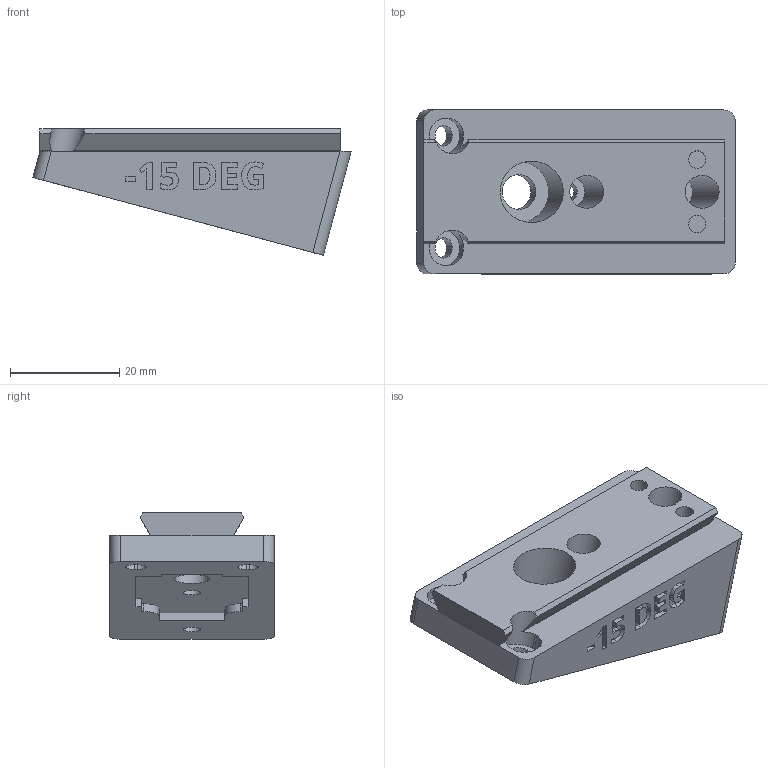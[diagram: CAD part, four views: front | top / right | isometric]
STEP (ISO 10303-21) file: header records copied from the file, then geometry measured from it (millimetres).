
FILE_DESCRIPTION(/* description */ ('STEP AP242 Edition 2','CAx-IF Rec.Pracs.---Representation and Presentation of Product Manufacturing Information (PMI)---4.0---2014-10-13','CAx-IF Rec.Pracs.---3D Tessellated Geometry---0.4---2014-09-14','2;1','CAx-IF Rec.Pracs.---User Defined Attributes---1.5---2016-08-15'),/* implementation_level */ '2;1');
FILE_NAME(/* name */ 'Camera Wedges - CAMERA MOUNTING WEDGE, NEG, -15 DEG',/* time_stamp */ '2026-07-08T20:34:44Z',/* author */ (''),/* organization */ (''),/* preprocessor_version */ 'ST-DEVELOPER v20',/* originating_system */ 'ONSHAPE BY PTC INC, 1.217',/* authorisation */ ' ');
FILE_SCHEMA (('AP242_MANAGED_MODEL_BASED_3D_ENGINEERING_MIM_LF { 1 0 10303 442 3 1 4 }'));
Length unit declared in the file: metre
Products named in the file (1): CAMERA MOUNTING WEDGE, NEG, -15 DEG
Bounding box: 58.22 x 30 x 23.13 mm (x, y, z)
Volume: 20975.9 mm3; surface area: 7734.3 mm2
Topology: 1 solids, 1 shells, 245 faces, 667 edges, 444 vertices
Faces by surface type: plane 155, cylinder 46, bspline 44
Full cylindrical faces by diameter (mm): 3.2 x4, 6 x2, 6.4 x1, 11.2 x1
Entity records: 7847 total; most frequent: CARTESIAN_POINT 1833, ORIENTED_EDGE 1318, DIRECTION 1079, EDGE_CURVE 659, LINE 467, VECTOR 467, VERTEX_POINT 444, AXIS2_PLACEMENT_3D 306
